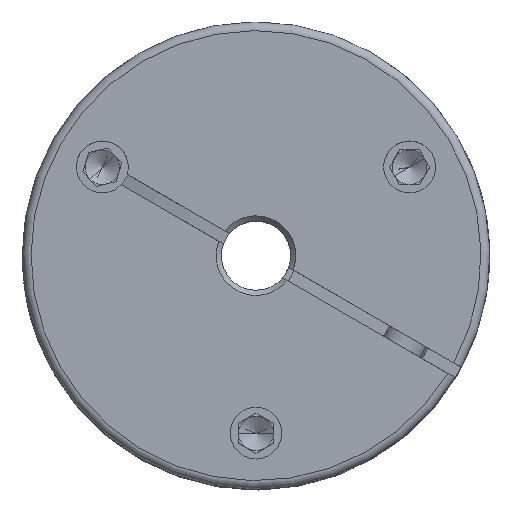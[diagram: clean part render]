
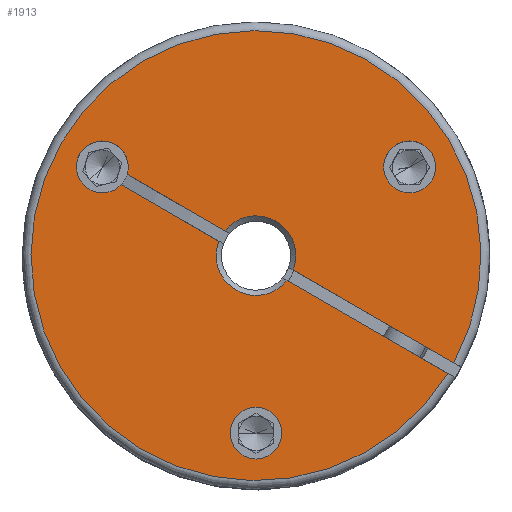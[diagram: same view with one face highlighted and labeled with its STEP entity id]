
A CAD part, top view. The second image highlights one B-rep face of the part: STEP entity #1913.
In plain terms, the highlighted planar face has unit normal (0, 0, 1).
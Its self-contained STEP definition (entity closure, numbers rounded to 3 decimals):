
#172 = FACE_BOUND ( 'NONE', #7732, .T. ) ;
#227 = CARTESIAN_POINT ( 'NONE',  ( 0., 0., 5.5 ) ) ;
#420 = VECTOR ( 'NONE', #1652, 1000. ) ;
#461 = CARTESIAN_POINT ( 'NONE',  ( 0., 0., 5.5 ) ) ;
#524 = CARTESIAN_POINT ( 'NONE',  ( 5.125, 8.877, 5.5 ) ) ;
#545 = CIRCLE ( 'NONE', #4907, 1.5 ) ;
#615 = VECTOR ( 'NONE', #9258, 1000. ) ;
#626 = DIRECTION ( 'NONE',  ( 1., 0., 0. ) ) ;
#648 = VERTEX_POINT ( 'NONE', #10451 ) ;
#719 = LINE ( 'NONE', #5852, #420 ) ;
#788 = LINE ( 'NONE', #7505, #615 ) ;
#811 = VECTOR ( 'NONE', #3414, 1000. ) ;
#868 = EDGE_CURVE ( 'NONE', #4035, #7434, #545, .T. ) ;
#1030 = AXIS2_PLACEMENT_3D ( 'NONE', #6128, #3492, #4366 ) ;
#1053 = FACE_BOUND ( 'NONE', #1338, .T. ) ;
#1092 = CARTESIAN_POINT ( 'NONE',  ( 2.273, -0.35, 5.5 ) ) ;
#1299 = CARTESIAN_POINT ( 'NONE',  ( 3.625, -8.877, 5.5 ) ) ;
#1338 = EDGE_LOOP ( 'NONE', ( #9301, #9245 ) ) ;
#1528 = DIRECTION ( 'NONE',  ( 0., 0., -1. ) ) ;
#1628 = DIRECTION ( 'NONE',  ( 0., 0., 1. ) ) ;
#1638 = ORIENTED_EDGE ( 'NONE', *, *, #7809, .T. ) ;
#1652 = DIRECTION ( 'NONE',  ( -1., 0., 0. ) ) ;
#1913 = ADVANCED_FACE ( 'NONE', ( #172, #1053, #5862 ), #3438, .T. ) ;
#2221 = CARTESIAN_POINT ( 'NONE',  ( 12.995, -0.35, 5.5 ) ) ;
#2330 = DIRECTION ( 'NONE',  ( 1., 0., 0. ) ) ;
#2655 = VERTEX_POINT ( 'NONE', #3878 ) ;
#2698 = ORIENTED_EDGE ( 'NONE', *, *, #8150, .T. ) ;
#2739 = DIRECTION ( 'NONE',  ( 1., 0., 0. ) ) ;
#2870 = AXIS2_PLACEMENT_3D ( 'NONE', #9112, #1628, #3147 ) ;
#2927 = AXIS2_PLACEMENT_3D ( 'NONE', #461, #7237, #6431 ) ;
#2959 = DIRECTION ( 'NONE',  ( 0., 0., 1. ) ) ;
#3093 = ORIENTED_EDGE ( 'NONE', *, *, #3593, .F. ) ;
#3147 = DIRECTION ( 'NONE',  ( 1., 0., 0. ) ) ;
#3148 = CARTESIAN_POINT ( 'NONE',  ( -2.273, 0.35, 5.5 ) ) ;
#3383 = DIRECTION ( 'NONE',  ( 1., 0., 0. ) ) ;
#3414 = DIRECTION ( 'NONE',  ( -1., 0., 0. ) ) ;
#3438 = PLANE ( 'NONE',  #8948 ) ;
#3441 = CARTESIAN_POINT ( 'NONE',  ( 0., 0., 5.5 ) ) ;
#3492 = DIRECTION ( 'NONE',  ( 0., 0., 1. ) ) ;
#3552 = ORIENTED_EDGE ( 'NONE', *, *, #3939, .F. ) ;
#3593 = EDGE_CURVE ( 'NONE', #648, #7271, #7594, .T. ) ;
#3778 = CARTESIAN_POINT ( 'NONE',  ( 5.125, -8.877, 5.5 ) ) ;
#3851 = CARTESIAN_POINT ( 'NONE',  ( 0., 0., 5.5 ) ) ;
#3878 = CARTESIAN_POINT ( 'NONE',  ( -8.791, 0.35, 5.5 ) ) ;
#3928 = AXIS2_PLACEMENT_3D ( 'NONE', #524, #6152, #10367 ) ;
#3939 = EDGE_CURVE ( 'NONE', #6234, #2655, #4558, .T. ) ;
#3947 = CARTESIAN_POINT ( 'NONE',  ( 6.625, -8.877, 5.5 ) ) ;
#3985 = EDGE_CURVE ( 'NONE', #8906, #7400, #9179, .T. ) ;
#4035 = VERTEX_POINT ( 'NONE', #1299 ) ;
#4138 = CARTESIAN_POINT ( 'NONE',  ( 5.125, -8.877, 5.5 ) ) ;
#4366 = DIRECTION ( 'NONE',  ( 1., 0., 0. ) ) ;
#4558 = LINE ( 'NONE', #4730, #7083 ) ;
#4627 = CIRCLE ( 'NONE', #5475, 13. ) ;
#4728 = VERTEX_POINT ( 'NONE', #1092 ) ;
#4730 = CARTESIAN_POINT ( 'NONE',  ( 0., 0.35, 5.5 ) ) ;
#4796 = DIRECTION ( 'NONE',  ( 0., 0., 1. ) ) ;
#4907 = AXIS2_PLACEMENT_3D ( 'NONE', #4138, #5785, #10614 ) ;
#5022 = CARTESIAN_POINT ( 'NONE',  ( -8.791, -0.35, 5.5 ) ) ;
#5025 = ORIENTED_EDGE ( 'NONE', *, *, #7715, .F. ) ;
#5041 = ORIENTED_EDGE ( 'NONE', *, *, #6297, .F. ) ;
#5178 = AXIS2_PLACEMENT_3D ( 'NONE', #3851, #1528, #2330 ) ;
#5337 = EDGE_CURVE ( 'NONE', #6234, #8134, #10257, .T. ) ;
#5475 = AXIS2_PLACEMENT_3D ( 'NONE', #3441, #7822, #2739 ) ;
#5785 = DIRECTION ( 'NONE',  ( 0., 0., 1. ) ) ;
#5852 = CARTESIAN_POINT ( 'NONE',  ( 0., -0.35, 5.5 ) ) ;
#5862 = FACE_OUTER_BOUND ( 'NONE', #6663, .T. ) ;
#5892 = ORIENTED_EDGE ( 'NONE', *, *, #10507, .F. ) ;
#5898 = CIRCLE ( 'NONE', #1030, 1.5 ) ;
#6027 = ORIENTED_EDGE ( 'NONE', *, *, #5337, .T. ) ;
#6128 = CARTESIAN_POINT ( 'NONE',  ( -10.25, 0., 5.5 ) ) ;
#6152 = DIRECTION ( 'NONE',  ( 0., 0., 1. ) ) ;
#6234 = VERTEX_POINT ( 'NONE', #3148 ) ;
#6297 = EDGE_CURVE ( 'NONE', #7400, #8906, #6703, .T. ) ;
#6372 = CARTESIAN_POINT ( 'NONE',  ( -2.273, -0.35, 5.5 ) ) ;
#6431 = DIRECTION ( 'NONE',  ( 1., 0., 0. ) ) ;
#6555 = CARTESIAN_POINT ( 'NONE',  ( 5.125, 8.877, 5.5 ) ) ;
#6559 = LINE ( 'NONE', #9064, #811 ) ;
#6663 = EDGE_LOOP ( 'NONE', ( #1638, #2698, #6719, #8518, #3093, #5892, #3552, #6027, #5025 ) ) ;
#6703 = CIRCLE ( 'NONE', #7048, 1.5 ) ;
#6719 = ORIENTED_EDGE ( 'NONE', *, *, #10296, .T. ) ;
#6734 = VERTEX_POINT ( 'NONE', #2221 ) ;
#6844 = DIRECTION ( 'NONE',  ( 0., 0., 1. ) ) ;
#7023 = CARTESIAN_POINT ( 'NONE',  ( 6.625, 8.877, 5.5 ) ) ;
#7048 = AXIS2_PLACEMENT_3D ( 'NONE', #6555, #4796, #8901 ) ;
#7083 = VECTOR ( 'NONE', #10588, 1000. ) ;
#7237 = DIRECTION ( 'NONE',  ( 0., 0., -1. ) ) ;
#7271 = VERTEX_POINT ( 'NONE', #5022 ) ;
#7400 = VERTEX_POINT ( 'NONE', #7023 ) ;
#7434 = VERTEX_POINT ( 'NONE', #3947 ) ;
#7505 = CARTESIAN_POINT ( 'NONE',  ( 0., 0.35, 5.5 ) ) ;
#7527 = VERTEX_POINT ( 'NONE', #6372 ) ;
#7594 = CIRCLE ( 'NONE', #2870, 1.5 ) ;
#7715 = EDGE_CURVE ( 'NONE', #9877, #8134, #788, .T. ) ;
#7732 = EDGE_LOOP ( 'NONE', ( #5041, #8592 ) ) ;
#7809 = EDGE_CURVE ( 'NONE', #9877, #6734, #4627, .T. ) ;
#7822 = DIRECTION ( 'NONE',  ( 0., 0., 1. ) ) ;
#8134 = VERTEX_POINT ( 'NONE', #8375 ) ;
#8150 = EDGE_CURVE ( 'NONE', #6734, #4728, #719, .T. ) ;
#8357 = CIRCLE ( 'NONE', #9761, 1.5 ) ;
#8375 = CARTESIAN_POINT ( 'NONE',  ( 2.273, 0.35, 5.5 ) ) ;
#8518 = ORIENTED_EDGE ( 'NONE', *, *, #9669, .T. ) ;
#8592 = ORIENTED_EDGE ( 'NONE', *, *, #3985, .F. ) ;
#8901 = DIRECTION ( 'NONE',  ( 1., 0., 0. ) ) ;
#8906 = VERTEX_POINT ( 'NONE', #10052 ) ;
#8948 = AXIS2_PLACEMENT_3D ( 'NONE', #227, #6844, #3383 ) ;
#9064 = CARTESIAN_POINT ( 'NONE',  ( 0., -0.35, 5.5 ) ) ;
#9112 = CARTESIAN_POINT ( 'NONE',  ( -10.25, 0., 5.5 ) ) ;
#9179 = CIRCLE ( 'NONE', #3928, 1.5 ) ;
#9245 = ORIENTED_EDGE ( 'NONE', *, *, #868, .F. ) ;
#9258 = DIRECTION ( 'NONE',  ( -1., 0., 0. ) ) ;
#9301 = ORIENTED_EDGE ( 'NONE', *, *, #10307, .F. ) ;
#9669 = EDGE_CURVE ( 'NONE', #7527, #7271, #6559, .T. ) ;
#9761 = AXIS2_PLACEMENT_3D ( 'NONE', #3778, #2959, #626 ) ;
#9877 = VERTEX_POINT ( 'NONE', #10157 ) ;
#10052 = CARTESIAN_POINT ( 'NONE',  ( 3.625, 8.877, 5.5 ) ) ;
#10157 = CARTESIAN_POINT ( 'NONE',  ( 12.995, 0.35, 5.5 ) ) ;
#10257 = CIRCLE ( 'NONE', #5178, 2.3 ) ;
#10296 = EDGE_CURVE ( 'NONE', #4728, #7527, #10626, .T. ) ;
#10307 = EDGE_CURVE ( 'NONE', #7434, #4035, #8357, .T. ) ;
#10367 = DIRECTION ( 'NONE',  ( 1., 0., 0. ) ) ;
#10451 = CARTESIAN_POINT ( 'NONE',  ( -11.75, 0., 5.5 ) ) ;
#10507 = EDGE_CURVE ( 'NONE', #2655, #648, #5898, .T. ) ;
#10588 = DIRECTION ( 'NONE',  ( -1., 0., 0. ) ) ;
#10614 = DIRECTION ( 'NONE',  ( 1., 0., 0. ) ) ;
#10626 = CIRCLE ( 'NONE', #2927, 2.3 ) ;
